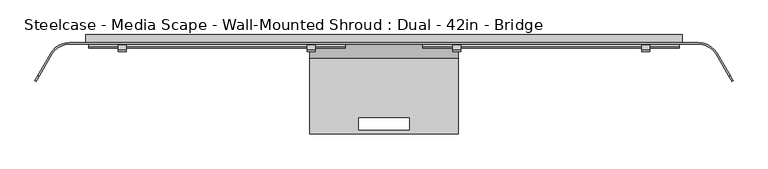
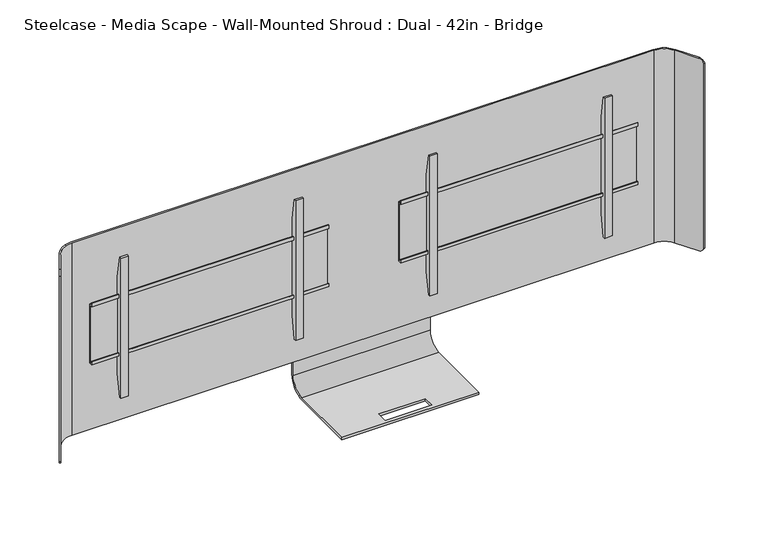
"""IFC4 building model written with IfcOpenShell, lengths in millimetres: furniture geometry, Steelcase - Media Scape - Wall-Mounted Shroud : Dual - 42in - Bridge."""

from ifc_helpers import new_model, si_unit, frame, origin, place, context, project, spatial, polyline, circle_curve, outline, extrude, source, transform, mapped, element, save
from ifc_brep_helpers import plane_surface, cylinder_surface, revolved_surface, advanced_brep


def steelcase_media_scape_wall_mounted_shroud_dual_42in_bridge_5625bba1(model_context):
    return source(origin(), model_context, "Body", "SolidModel", [
        extrude(outline(polyline([(-42.4942785, 1288.4504726), (-42.4942785, 1300.4645649), (-39.8272175, 1300.4645649), (-39.8272175, 1291.117461), (-29.9720009, 1291.117461), (-29.9720009, 1076.7922438), (-42.3164551, 1076.7922438), (-42.3164551, 1087.7142515), (-39.649394, 1087.7142515), (-39.649394, 1079.457052), (-32.6531824, 1079.457052), (-32.6531824, 1288.4504726), (-42.4942785, 1288.4504726)])), frame((123.571, 0.0, 0.0), z_axis=(1.0, 0.0, 0.0), x_axis=(0.0, 1.0, 0.0)), (0.0, 0.0, 1.0), 812.8),
        extrude(outline(polyline([(-32.6531824, 1359.3971148), (-32.6531824, 1007.5825607), (-46.5049349, 929.9546949), (-53.3399828, 929.9546949), (-53.3399828, 1437.9547192), (-46.5050076, 1437.9547192), (-32.6531824, 1359.3971148)])), frame((217.172426, 0.0, 0.0), z_axis=(1.0, 0.0, 0.0), x_axis=(0.0, 1.0, 0.0)), (0.0, 0.0, 1.0), 26.1592872),
        extrude(outline(polyline([(-32.6531824, 1359.3971148), (-32.6531824, 1007.5825607), (-46.5049349, 929.9546949), (-53.3399828, 929.9546949), (-53.3399828, 1437.9547192), (-46.5050076, 1437.9547192), (-32.6531824, 1359.3971148)])), frame((816.6102868, 0.0, 0.0), z_axis=(1.0, 0.0, 0.0), x_axis=(0.0, 1.0, 0.0)), (0.0, 0.0, 1.0), 26.1592872),
        extrude(outline(polyline([(-42.4942785, 1288.4504726), (-42.4942785, 1300.4645649), (-39.8272175, 1300.4645649), (-39.8272175, 1291.117461), (-29.9720009, 1291.117461), (-29.9720009, 1076.7922438), (-42.3164551, 1076.7922438), (-42.3164551, 1087.7142515), (-39.649394, 1087.7142515), (-39.649394, 1079.457052), (-32.6531824, 1079.457052), (-32.6531824, 1288.4504726), (-42.4942785, 1288.4504726)])), frame((-936.371, 0.0, 0.0), z_axis=(1.0, 0.0, 0.0), x_axis=(0.0, 1.0, 0.0)), (0.0, 0.0, 1.0), 812.8),
        extrude(outline(polyline([(-32.6531824, 1359.3971148), (-32.6531824, 1007.5825607), (-46.5049349, 929.9546949), (-53.3399828, 929.9546949), (-53.3399828, 1437.9547192), (-46.5050076, 1437.9547192), (-32.6531824, 1359.3971148)])), frame((-243.3317132, 0.0, 0.0), z_axis=(1.0, 0.0, 0.0), x_axis=(0.0, 1.0, 0.0)), (0.0, 0.0, 1.0), 26.1592872),
        extrude(outline(polyline([(-32.6531824, 1359.3971148), (-32.6531824, 1007.5825607), (-46.5049349, 929.9546949), (-53.3399828, 929.9546949), (-53.3399828, 1437.9547192), (-46.5050076, 1437.9547192), (-32.6531824, 1359.3971148)])), frame((-842.769574, 0.0, 0.0), z_axis=(1.0, 0.0, 0.0), x_axis=(0.0, 1.0, 0.0)), (0.0, 0.0, 1.0), 26.1592872),
        advanced_brep(
        [(234.9499879, -25.4, 783.5646188), (234.9499879, -75.8697585, 733.0948603), (234.9499879, -314.3253876, 733.0948603), (234.9499879, -314.3253876, 725.1446188), (234.9499879, -75.8696132, 725.1446188), (234.9499879, -17.4496132, 783.5646188), (234.9499879, -17.4496132, 1088.6947876), (234.9499879, -25.4, 1088.6947876), (-234.9499879, -25.4, 783.5646188), (-234.9499879, -25.4, 1088.6947876), (-234.9499879, -17.4496132, 1088.6947876), (-234.9499879, -17.4496132, 783.5646188), (-234.9499879, -75.8696132, 725.1446188), (-234.9499879, -314.3253876, 725.1446188), (-234.9499879, -314.3253876, 733.0948603), (-234.9499879, -75.8697585, 733.0948603), (-79.502, -263.5253876, 733.0948603), (79.502, -263.5253876, 733.0948603), (79.502, -301.6253876, 733.0948603), (-79.502, -301.6253876, 733.0948603), (79.502, -263.5253876, 725.1446188), (-79.502, -263.5253876, 725.1446188), (-79.502, -301.6253876, 725.1446188), (79.502, -301.6253876, 725.1446188)],
        [
            (0, 1, circle_curve(frame((234.9499879, -75.8697585, 783.5646188), z_axis=(-1.0, 0.0, 0.0), x_axis=(0.0, 1.0, 0.0)), 50.4697585)),
            (1, 2),
            (2, 3),
            (3, 4),
            (4, 5, circle_curve(frame((234.9499879, -75.8696132, 783.5646188), z_axis=(1.0, 0.0, 0.0), x_axis=(0.0, 1.0, 0.0)), 58.42)),
            (5, 6),
            (6, 7),
            (7, 0),
            (8, 9),
            (9, 10),
            (10, 11),
            (11, 12, circle_curve(frame((-234.9499879, -75.8696132, 783.5646188), z_axis=(-1.0, 0.0, 0.0), x_axis=(0.0, 1.0, 0.0)), 58.42)),
            (12, 13),
            (13, 14),
            (14, 15),
            (15, 8, circle_curve(frame((-234.9499879, -75.8697585, 783.5646188), z_axis=(1.0, 0.0, 0.0), x_axis=(0.0, 1.0, 0.0)), 50.4697585)),
            (1, 15),
            (14, 2),
            (16, 17),
            (17, 18),
            (18, 19),
            (19, 16),
            (13, 3),
            (12, 4),
            (20, 21),
            (21, 22),
            (22, 23),
            (23, 20),
            (5, 11),
            (10, 6),
            (9, 7),
            (8, 0),
            (20, 17),
            (16, 21),
            (19, 22),
            (18, 23),
        ],
        [
            plane_surface(frame((234.9499879, -25.4, 783.5646188), z_axis=(1.0, 0.0, 0.0), x_axis=(0.0, 0.0, -1.0))),
            plane_surface(frame((-234.9499879, -25.4, 783.5646188), z_axis=(-1.0, 0.0, 0.0), x_axis=(0.0, 0.0, 1.0))),
            plane_surface(frame((234.9499879, -75.8697585, 733.0948603), z_axis=(0.0, 0.0, 1.0), x_axis=(-1.0, 0.0, 0.0))),
            plane_surface(frame((234.9499879, -314.3253876, 733.0948603), z_axis=(0.0, -1.0, 0.0), x_axis=(-1.0, 0.0, 0.0))),
            plane_surface(frame((234.9499879, -314.3253876, 725.1446188), z_axis=(0.0, 0.0, -1.0), x_axis=(-1.0, 0.0, 0.0))),
            plane_surface(frame((234.9499879, -17.4496132, 783.5646188), z_axis=(0.0, 1.0, 0.0), x_axis=(-1.0, 0.0, 0.0))),
            plane_surface(frame((234.9499879, -17.4496132, 1088.6947876), z_axis=(0.0, 0.0, 1.0), x_axis=(-1.0, 0.0, 0.0))),
            plane_surface(frame((234.9499879, -25.4, 1088.6947876), z_axis=(0.0, -1.0, 0.0), x_axis=(-1.0, 0.0, 0.0))),
            revolved_surface(polyline([(-234.9499879, -25.400000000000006, 783.5646188), (234.9499879, -25.400000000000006, 783.5646188)]), (-234.9499879, -75.8697585, 783.5646188), (-1.0, 0.0, 0.0)),
            cylinder_surface(frame((-234.9499879, -75.8696132, 783.5646188), z_axis=(1.0, 0.0, 0.0), x_axis=(0.0, 1.0, 0.0)), 58.42),
            plane_surface(frame((79.502, -263.5253876, 1824.7300588), z_axis=(0.0, -1.0, 0.0), x_axis=(0.0, 0.0, -1.0))),
            plane_surface(frame((-79.502, -263.5253876, 1824.7300588), z_axis=(1.0, 0.0, 0.0), x_axis=(0.0, 0.0, -1.0))),
            plane_surface(frame((-79.502, -301.6253876, 1824.7300588), z_axis=(0.0, 1.0, 0.0), x_axis=(0.0, 0.0, -1.0))),
            plane_surface(frame((79.502, -301.6253876, 1824.7300588), z_axis=(-1.0, 0.0, 0.0), x_axis=(0.0, 0.0, -1.0))),
        ],
        [
            (0, [[1, 2, 3, 4, 5, 6, 7, 8]]),
            (1, [[9, 10, 11, 12, 13, 14, 15, 16]]),
            (2, [[-2, 17, -15, 18], [19, 20, 21, 22]]),
            (3, [[-3, -18, -14, 23]]),
            (4, [[-4, -23, -13, 24], [25, 26, 27, 28]]),
            (5, [[-6, 29, -11, 30]]),
            (6, [[-7, -30, -10, 31]]),
            (7, [[-8, -31, -9, 32]]),
            (8, [[-1, -32, -16, -17]]),
            (9, [[-5, -24, -12, -29]]),
            (10, [[33, -19, 34, -25]]),
            (11, [[-34, -22, 35, -26]]),
            (12, [[-35, -21, 36, -27]]),
            (13, [[-33, -28, -36, -20]]),
        ],
    ),
        advanced_brep(
        [(-1052.9586135, -61.722, 1534.414), (-997.966002, -29.9720009, 1534.414), (997.966, -29.9720009, 1534.414), (1052.9586135, -61.722, 1534.414), (1093.079586, -131.2135628, 1534.414), (1097.0390541, -128.9275628, 1534.414), (1056.9180817, -59.436, 1534.414), (997.966002, -25.4, 1534.414), (-997.966, -25.4, 1534.414), (-1056.9180817, -59.436, 1534.414), (-1097.0421659, -128.9329524, 1534.414), (-1093.0826977, -131.2189524, 1534.414), (-1056.9180817, -59.436, 835.914), (-997.966002, -25.4, 835.914), (997.966, -25.4, 835.914), (1056.9180817, -59.436, 835.914), (1097.0906629, -129.0169518, 835.914), (1093.1311948, -131.3029518, 835.914), (1052.9586135, -61.722, 835.914), (997.966002, -29.9720009, 835.914), (-997.966, -29.9720009, 835.914), (-1052.9586135, -61.722, 835.914), (-1093.1454014, -131.3275584, 835.914), (-1097.1048695, -129.0415584, 835.914), (-1106.6090632, -145.5033047, 849.5242766), (-1106.6090632, -145.5033047, 1520.4227735), (-1102.6495951, -147.7893047, 1520.4227735), (-1102.6495951, -147.7893047, 849.5242766), (1102.6270866, -147.7503189, 849.4756893), (1102.6270866, -147.7503189, 1520.5433849), (1106.5865547, -145.4643189, 1520.5433849), (1106.5865547, -145.4643189, 849.4756893)],
        [
            (0, 1, circle_curve(frame((-997.966002, -93.4719991, 1534.414), z_axis=(0.0, 0.0, -1.0), x_axis=(0.0, 1.0, 0.0)), 63.4999981)),
            (1, 2),
            (2, 3, circle_curve(frame((997.966002, -93.4719991, 1534.414), z_axis=(0.0, 0.0, -1.0), x_axis=(0.0, 1.0, 0.0)), 63.4999981)),
            (3, 4),
            (4, 5),
            (5, 6),
            (6, 7, circle_curve(frame((997.9660004, -93.472, 1534.414), z_axis=(0.0, 0.0, 1.0), x_axis=(0.0, 1.0, 0.0)), 68.072)),
            (7, 8),
            (8, 9, circle_curve(frame((-997.9660004, -93.472, 1534.414), z_axis=(0.0, 0.0, 1.0), x_axis=(0.0, 1.0, 0.0)), 68.072)),
            (9, 10),
            (10, 11),
            (11, 0),
            (12, 13, circle_curve(frame((-997.9660004, -93.472, 835.914), z_axis=(0.0, 0.0, -1.0), x_axis=(0.0, 1.0, 0.0)), 68.072)),
            (13, 14),
            (14, 15, circle_curve(frame((997.9660004, -93.472, 835.914), z_axis=(0.0, 0.0, -1.0), x_axis=(0.0, 1.0, 0.0)), 68.072)),
            (15, 16),
            (16, 17),
            (17, 18),
            (18, 19, circle_curve(frame((997.966002, -93.4719991, 835.914), z_axis=(0.0, 0.0, 1.0), x_axis=(0.0, 1.0, 0.0)), 63.4999981)),
            (19, 20),
            (20, 21, circle_curve(frame((-997.966002, -93.4719991, 835.914), z_axis=(0.0, 0.0, 1.0), x_axis=(0.0, 1.0, 0.0)), 63.4999981)),
            (21, 22),
            (22, 23),
            (23, 12),
            (0, 21),
            (20, 1),
            (8, 13),
            (12, 9),
            (23, 24, circle_curve(frame((-1097.1048695, -129.0415584, 855.9928872), z_axis=(-0.8660254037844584, 0.49999999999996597, 0.0), x_axis=(-0.49999999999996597, -0.8660254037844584, 0.0)), 20.0788872)),
            (24, 25),
            (25, 10, circle_curve(frame((-1097.0421659, -128.9329524, 1514.3351128), z_axis=(-0.8660254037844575, 0.4999999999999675, 0.0), x_axis=(-0.4999999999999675, -0.8660254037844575, 0.0)), 20.0788872)),
            (26, 25),
            (24, 27),
            (27, 26),
            (11, 26, circle_curve(frame((-1093.0826977, -131.2189524, 1514.3351128), z_axis=(0.8660254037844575, -0.4999999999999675, 0.0), x_axis=(-0.4999999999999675, -0.8660254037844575, 0.0)), 20.0788872)),
            (27, 22, circle_curve(frame((-1093.1454014, -131.3275584, 855.9928872), z_axis=(0.8660254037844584, -0.49999999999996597, 0.0), x_axis=(-0.49999999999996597, -0.8660254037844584, 0.0)), 20.0788872)),
            (7, 14),
            (19, 2),
            (3, 18),
            (17, 28, circle_curve(frame((1093.1311948, -131.3029518, 855.9928872), z_axis=(-0.8660254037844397, -0.49999999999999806, 0.0), x_axis=(0.49999999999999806, -0.8660254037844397, 0.0)), 20.0788872)),
            (28, 29),
            (29, 4, circle_curve(frame((1093.079586, -131.2135628, 1514.3351128), z_axis=(-0.8660254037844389, -0.49999999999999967, 0.0), x_axis=(0.49999999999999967, -0.8660254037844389, 0.0)), 20.0788872)),
            (30, 29),
            (28, 31),
            (31, 30),
            (15, 6),
            (5, 30, circle_curve(frame((1097.0390541, -128.9275628, 1514.3351128), z_axis=(0.8660254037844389, 0.49999999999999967, 0.0), x_axis=(0.49999999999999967, -0.8660254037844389, 0.0)), 20.0788872)),
            (31, 16, circle_curve(frame((1097.0906629, -129.0169518, 855.9928872), z_axis=(0.8660254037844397, 0.49999999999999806, 0.0), x_axis=(0.49999999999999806, -0.8660254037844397, 0.0)), 20.0788872)),
        ],
        [
            plane_surface(frame((-997.966002, -29.9720009, 1534.414), z_axis=(0.0, 0.0, 1.0), x_axis=(1.0, 0.0, 0.0))),
            plane_surface(frame((-997.966002, -29.9720009, 835.914), z_axis=(0.0, 0.0, -1.0), x_axis=(-1.0, 0.0, 0.0))),
            revolved_surface(polyline([(-997.966002, -29.972001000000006, 835.914), (-997.966002, -29.972001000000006, 1534.414)]), (-997.966002, -93.4719991, 835.914), (0.0, 0.0, -1.0)),
            cylinder_surface(frame((-997.9660004, -93.472, 835.914), z_axis=(0.0, 0.0, 1.0), x_axis=(0.0, 1.0, 0.0)), 68.072),
            plane_surface(frame((-1056.9180817, -59.436, 1534.414), z_axis=(-0.8660254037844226, 0.5000000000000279, 0.0), x_axis=(0.0, 0.0, -1.0))),
            plane_surface(frame((-1106.6090632, -145.5033047, 1534.414), z_axis=(-0.5000000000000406, -0.8660254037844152, 0.0), x_axis=(0.0, 0.0, -1.0))),
            plane_surface(frame((-1102.6495951, -147.7893047, 1534.414), z_axis=(0.8660254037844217, -0.5000000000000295, 0.0), x_axis=(0.0, 0.0, -1.0))),
            plane_surface(frame((997.966, -25.4, 1534.414), z_axis=(0.0, 1.0, 0.0), x_axis=(0.0, 0.0, -1.0))),
            plane_surface(frame((-997.966, -29.9720009, 1534.414), z_axis=(0.0, -1.0, 0.0), x_axis=(0.0, 0.0, -1.0))),
            plane_surface(frame((1052.9586135, -61.722, 1534.414), z_axis=(-0.8660254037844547, -0.4999999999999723, 0.0), x_axis=(0.0, 0.0, -1.0))),
            plane_surface(frame((1102.6270866, -147.7503189, 1534.414), z_axis=(0.4999999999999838, -0.866025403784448, 0.0), x_axis=(0.0, 0.0, -1.0))),
            plane_surface(frame((1106.5865547, -145.4643189, 1534.414), z_axis=(0.8660254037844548, 0.49999999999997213, 0.0), x_axis=(0.0, 0.0, -1.0))),
            cylinder_surface(frame((997.9660004, -93.472, 835.914), z_axis=(0.0, 0.0, 1.0), x_axis=(0.0, 1.0, 0.0)), 68.072),
            revolved_surface(polyline([(997.966002, -29.972001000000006, 835.914), (997.966002, -29.972001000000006, 1534.414)]), (997.966002, -93.4719991, 835.914), (0.0, 0.0, -1.0)),
            cylinder_surface(frame((-1093.0826977, -131.2189524, 1514.3351128), z_axis=(0.8660254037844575, -0.4999999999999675, 0.0), x_axis=(-0.4999999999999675, -0.8660254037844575, 0.0)), 20.0788872),
            cylinder_surface(frame((-1093.1454014, -131.3275584, 855.9928872), z_axis=(0.8660254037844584, -0.49999999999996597, 0.0), x_axis=(-0.49999999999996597, -0.8660254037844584, 0.0)), 20.0788872),
            cylinder_surface(frame((1108.1864297, -122.4916225, 1514.3351128), z_axis=(0.8660254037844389, 0.49999999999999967, 0.0), x_axis=(0.49999999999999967, -0.8660254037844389, 0.0)), 20.0788872),
            cylinder_surface(frame((1105.3789695, -124.2316958, 855.9928872), z_axis=(0.8660254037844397, 0.49999999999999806, 0.0), x_axis=(0.49999999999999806, -0.8660254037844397, 0.0)), 20.0788872),
        ],
        [
            (0, [[1, 2, 3, 4, 5, 6, 7, 8, 9, 10, 11, 12]]),
            (1, [[13, 14, 15, 16, 17, 18, 19, 20, 21, 22, 23, 24]]),
            (2, [[-1, 25, -21, 26]]),
            (3, [[-9, 27, -13, 28]]),
            (4, [[-28, -24, 29, 30, 31, -10]]),
            (5, [[32, -30, 33, 34]]),
            (6, [[-25, -12, 35, -34, 36, -22]]),
            (7, [[-8, 37, -14, -27]]),
            (8, [[-2, -26, -20, 38]]),
            (9, [[39, -18, 40, 41, 42, -4]]),
            (10, [[43, -41, 44, 45]]),
            (11, [[46, -6, 47, -45, 48, -16]]),
            (12, [[-7, -46, -15, -37]]),
            (13, [[-3, -38, -19, -39]]),
            (14, [[-11, -31, -32, -35]]),
            (15, [[-23, -36, -33, -29]]),
            (16, [[-5, -42, -43, -47]]),
            (17, [[-17, -48, -44, -40]]),
        ],
    ),
        extrude(outline(polyline([(912.1648167, 882.6499879), (912.1648167, 946.15), (1458.214, 946.15), (1458.214, -946.15), (912.1648167, -946.15), (912.1648167, -883.6433465), (1394.7139516, -883.6433465), (1394.7139516, 882.6499879), (912.1648167, 882.6499879)])), frame((0.0, -25.4, 0.0), z_axis=(0.0, 1.0, 0.0), x_axis=(0.0, 0.0, 1.0)), (0.0, 0.0, 1.0), 25.4),
    ])


if __name__ == "__main__":
    model = new_model("IFC4")
    model_context = context("Model", 3, world=origin())
    ifc_project = project(units=[si_unit("LENGTHUNIT", "METRE", prefix="MILLI")], contexts=[model_context])
    site = spatial("IfcSite", under=ifc_project)
    building = spatial("IfcBuilding", under=site)
    placement = place(None, origin())
    steelcase_media_scape_wall_mounted_shroud_dual_42in_bridge_shape = steelcase_media_scape_wall_mounted_shroud_dual_42in_bridge_5625bba1(model_context)
    element("IfcFurniture", 1, ObjectType="Steelcase - Media Scape - Wall-Mounted Shroud : Dual - 42in - Bridge", at=placement, inside=building, context=model_context, shape_type="MappedRepresentation", body=[
        mapped(steelcase_media_scape_wall_mounted_shroud_dual_42in_bridge_shape, transform((0.0, 0.0, 0.0), x_axis=(1.0, 0.0, 0.0), y_axis=(0.0, 1.0, 0.0), z_axis=(0.0, 0.0, 1.0))),
    ])
    save(model, "model.ifc")
